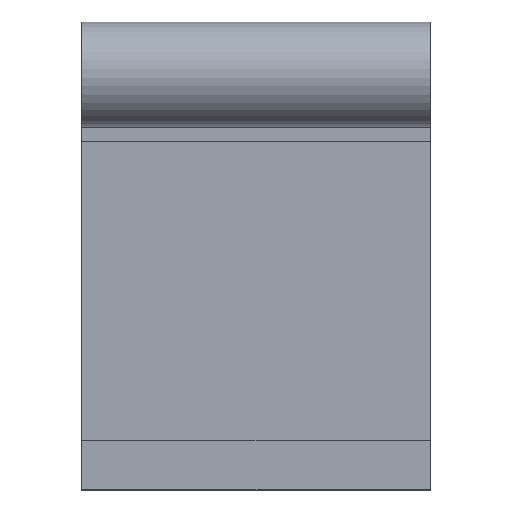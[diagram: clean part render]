
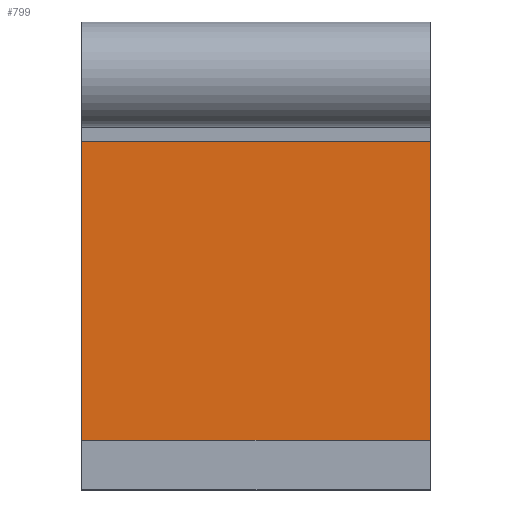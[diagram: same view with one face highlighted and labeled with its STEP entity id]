
A CAD part, top view. The second image highlights one B-rep face of the part: STEP entity #799.
In plain terms, the highlighted planar face has unit normal (0, 0, 1).
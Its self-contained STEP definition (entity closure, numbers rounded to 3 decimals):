
#44 = PLANE('',#45);
#45 = AXIS2_PLACEMENT_3D('',#46,#47,#48);
#46 = CARTESIAN_POINT('',(25.2,112.2,26.8));
#47 = DIRECTION('',(1.,0.,-0.));
#48 = DIRECTION('',(0.,-1.,0.));
#100 = PLANE('',#101);
#101 = AXIS2_PLACEMENT_3D('',#102,#103,#104);
#102 = CARTESIAN_POINT('',(37.8,97.2,26.8));
#103 = DIRECTION('',(-1.,0.,0.));
#104 = DIRECTION('',(0.,1.,0.));
#254 = VERTEX_POINT('',#255);
#255 = CARTESIAN_POINT('',(25.2,109.8,28.6));
#269 = PLANE('',#270);
#270 = AXIS2_PLACEMENT_3D('',#271,#272,#273);
#271 = CARTESIAN_POINT('',(25.2,109.8,26.8));
#272 = DIRECTION('',(0.,1.,0.));
#273 = DIRECTION('',(1.,0.,0.));
#281 = EDGE_CURVE('',#254,#282,#284,.T.);
#282 = VERTEX_POINT('',#283);
#283 = CARTESIAN_POINT('',(25.2,99.,28.6));
#284 = SURFACE_CURVE('',#285,(#289,#296),.PCURVE_S1.);
#285 = LINE('',#286,#287);
#286 = CARTESIAN_POINT('',(25.2,112.2,28.6));
#287 = VECTOR('',#288,1.);
#288 = DIRECTION('',(0.,-1.,0.));
#289 = PCURVE('',#44,#290);
#290 = DEFINITIONAL_REPRESENTATION('',(#291),#295);
#291 = LINE('',#292,#293);
#292 = CARTESIAN_POINT('',(0.,-1.8));
#293 = VECTOR('',#294,1.);
#294 = DIRECTION('',(1.,0.));
#295 = ( GEOMETRIC_REPRESENTATION_CONTEXT(2) 
PARAMETRIC_REPRESENTATION_CONTEXT() REPRESENTATION_CONTEXT('2D SPACE',''
  ) );
#296 = PCURVE('',#297,#302);
#297 = PLANE('',#298);
#298 = AXIS2_PLACEMENT_3D('',#299,#300,#301);
#299 = CARTESIAN_POINT('',(31.5,104.7,28.6));
#300 = DIRECTION('',(0.,0.,1.));
#301 = DIRECTION('',(1.,0.,-0.));
#302 = DEFINITIONAL_REPRESENTATION('',(#303),#307);
#303 = LINE('',#304,#305);
#304 = CARTESIAN_POINT('',(-6.3,7.5));
#305 = VECTOR('',#306,1.);
#306 = DIRECTION('',(0.,-1.));
#307 = ( GEOMETRIC_REPRESENTATION_CONTEXT(2) 
PARAMETRIC_REPRESENTATION_CONTEXT() REPRESENTATION_CONTEXT('2D SPACE',''
  ) );
#325 = PLANE('',#326);
#326 = AXIS2_PLACEMENT_3D('',#327,#328,#329);
#327 = CARTESIAN_POINT('',(37.8,99.,26.8));
#328 = DIRECTION('',(0.,-1.,0.));
#329 = DIRECTION('',(-1.,0.,0.));
#472 = VERTEX_POINT('',#473);
#473 = CARTESIAN_POINT('',(37.8,99.,28.6));
#494 = EDGE_CURVE('',#472,#495,#497,.T.);
#495 = VERTEX_POINT('',#496);
#496 = CARTESIAN_POINT('',(37.8,109.8,28.6));
#497 = SURFACE_CURVE('',#498,(#502,#509),.PCURVE_S1.);
#498 = LINE('',#499,#500);
#499 = CARTESIAN_POINT('',(37.8,97.2,28.6));
#500 = VECTOR('',#501,1.);
#501 = DIRECTION('',(0.,1.,0.));
#502 = PCURVE('',#100,#503);
#503 = DEFINITIONAL_REPRESENTATION('',(#504),#508);
#504 = LINE('',#505,#506);
#505 = CARTESIAN_POINT('',(0.,-1.8));
#506 = VECTOR('',#507,1.);
#507 = DIRECTION('',(1.,0.));
#508 = ( GEOMETRIC_REPRESENTATION_CONTEXT(2) 
PARAMETRIC_REPRESENTATION_CONTEXT() REPRESENTATION_CONTEXT('2D SPACE',''
  ) );
#509 = PCURVE('',#297,#510);
#510 = DEFINITIONAL_REPRESENTATION('',(#511),#515);
#511 = LINE('',#512,#513);
#512 = CARTESIAN_POINT('',(6.3,-7.5));
#513 = VECTOR('',#514,1.);
#514 = DIRECTION('',(0.,1.));
#515 = ( GEOMETRIC_REPRESENTATION_CONTEXT(2) 
PARAMETRIC_REPRESENTATION_CONTEXT() REPRESENTATION_CONTEXT('2D SPACE',''
  ) );
#749 = EDGE_CURVE('',#282,#472,#750,.T.);
#750 = SURFACE_CURVE('',#751,(#755,#762),.PCURVE_S1.);
#751 = LINE('',#752,#753);
#752 = CARTESIAN_POINT('',(34.65,99.,28.6));
#753 = VECTOR('',#754,1.);
#754 = DIRECTION('',(1.,0.,-0.));
#755 = PCURVE('',#325,#756);
#756 = DEFINITIONAL_REPRESENTATION('',(#757),#761);
#757 = LINE('',#758,#759);
#758 = CARTESIAN_POINT('',(3.15,-1.8));
#759 = VECTOR('',#760,1.);
#760 = DIRECTION('',(-1.,0.));
#761 = ( GEOMETRIC_REPRESENTATION_CONTEXT(2) 
PARAMETRIC_REPRESENTATION_CONTEXT() REPRESENTATION_CONTEXT('2D SPACE',''
  ) );
#762 = PCURVE('',#297,#763);
#763 = DEFINITIONAL_REPRESENTATION('',(#764),#768);
#764 = LINE('',#765,#766);
#765 = CARTESIAN_POINT('',(3.15,-5.7));
#766 = VECTOR('',#767,1.);
#767 = DIRECTION('',(1.,0.));
#768 = ( GEOMETRIC_REPRESENTATION_CONTEXT(2) 
PARAMETRIC_REPRESENTATION_CONTEXT() REPRESENTATION_CONTEXT('2D SPACE',''
  ) );
#776 = EDGE_CURVE('',#495,#254,#777,.T.);
#777 = SURFACE_CURVE('',#778,(#782,#789),.PCURVE_S1.);
#778 = LINE('',#779,#780);
#779 = CARTESIAN_POINT('',(28.35,109.8,28.6));
#780 = VECTOR('',#781,1.);
#781 = DIRECTION('',(-1.,0.,0.));
#782 = PCURVE('',#269,#783);
#783 = DEFINITIONAL_REPRESENTATION('',(#784),#788);
#784 = LINE('',#785,#786);
#785 = CARTESIAN_POINT('',(3.15,-1.8));
#786 = VECTOR('',#787,1.);
#787 = DIRECTION('',(-1.,0.));
#788 = ( GEOMETRIC_REPRESENTATION_CONTEXT(2) 
PARAMETRIC_REPRESENTATION_CONTEXT() REPRESENTATION_CONTEXT('2D SPACE',''
  ) );
#789 = PCURVE('',#297,#790);
#790 = DEFINITIONAL_REPRESENTATION('',(#791),#795);
#791 = LINE('',#792,#793);
#792 = CARTESIAN_POINT('',(-3.15,5.1));
#793 = VECTOR('',#794,1.);
#794 = DIRECTION('',(-1.,0.));
#795 = ( GEOMETRIC_REPRESENTATION_CONTEXT(2) 
PARAMETRIC_REPRESENTATION_CONTEXT() REPRESENTATION_CONTEXT('2D SPACE',''
  ) );
#799 = ADVANCED_FACE('',(#800),#297,.T.);
#800 = FACE_BOUND('',#801,.T.);
#801 = EDGE_LOOP('',(#802,#803,#804,#805));
#802 = ORIENTED_EDGE('',*,*,#776,.T.);
#803 = ORIENTED_EDGE('',*,*,#281,.T.);
#804 = ORIENTED_EDGE('',*,*,#749,.T.);
#805 = ORIENTED_EDGE('',*,*,#494,.T.);
